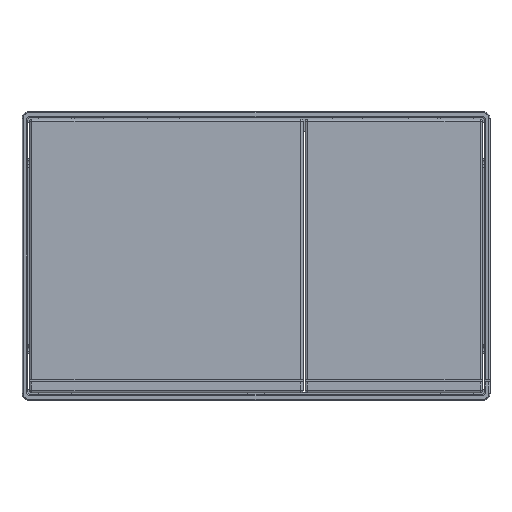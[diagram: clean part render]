
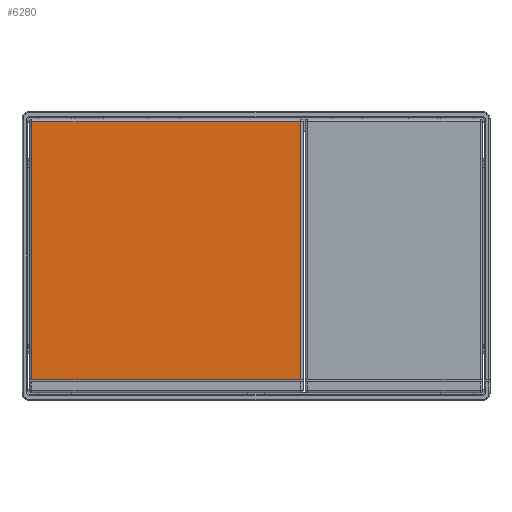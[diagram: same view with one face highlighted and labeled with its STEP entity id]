
A CAD part, front view. The second image highlights one B-rep face of the part: STEP entity #6280.
In plain terms, the highlighted planar face has unit normal (0, -1, 0).
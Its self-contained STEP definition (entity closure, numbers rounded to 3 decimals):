
#219=FACE_OUTER_BOUND('',#551,.T.);
#551=EDGE_LOOP('',(#3964,#3965,#3966,#3967));
#887=LINE('',#9019,#1565);
#888=LINE('',#9021,#1566);
#889=LINE('',#9023,#1567);
#890=LINE('',#9024,#1568);
#1565=VECTOR('',#7242,118.);
#1566=VECTOR('',#7243,123.);
#1567=VECTOR('',#7244,118.);
#1568=VECTOR('',#7245,123.);
#2430=VERTEX_POINT('',#9017);
#2431=VERTEX_POINT('',#9018);
#2432=VERTEX_POINT('',#9020);
#2433=VERTEX_POINT('',#9022);
#3023=EDGE_CURVE('',#2430,#2431,#887,.T.);
#3024=EDGE_CURVE('',#2430,#2432,#888,.T.);
#3025=EDGE_CURVE('',#2433,#2432,#889,.T.);
#3026=EDGE_CURVE('',#2431,#2433,#890,.T.);
#3964=ORIENTED_EDGE('',*,*,#3023,.F.);
#3965=ORIENTED_EDGE('',*,*,#3024,.T.);
#3966=ORIENTED_EDGE('',*,*,#3025,.F.);
#3967=ORIENTED_EDGE('',*,*,#3026,.F.);
#5744=PLANE('',#6646);
#6280=ADVANCED_FACE('',(#219),#5744,.F.);
#6646=AXIS2_PLACEMENT_3D('',#9016,#7240,#7241);
#7240=DIRECTION('center_axis',(0.,1.,0.));
#7241=DIRECTION('ref_axis',(0.,0.,-1.));
#7242=DIRECTION('',(0.,0.,1.));
#7243=DIRECTION('',(1.,0.,0.));
#7244=DIRECTION('',(0.,0.,-1.));
#7245=DIRECTION('',(1.,0.,0.));
#9016=CARTESIAN_POINT('Origin',(-41.,-0.5,0.));
#9017=CARTESIAN_POINT('',(-102.5,-0.5,-56.5));
#9018=CARTESIAN_POINT('',(-102.5,-0.5,61.5));
#9019=CARTESIAN_POINT('',(-102.5,-0.5,-31.25));
#9020=CARTESIAN_POINT('',(20.5,-0.5,-56.5));
#9021=CARTESIAN_POINT('',(-72.25,-0.5,-56.5));
#9022=CARTESIAN_POINT('',(20.5,-0.5,61.5));
#9023=CARTESIAN_POINT('',(20.5,-0.5,31.25));
#9024=CARTESIAN_POINT('',(-72.25,-0.5,61.5));
